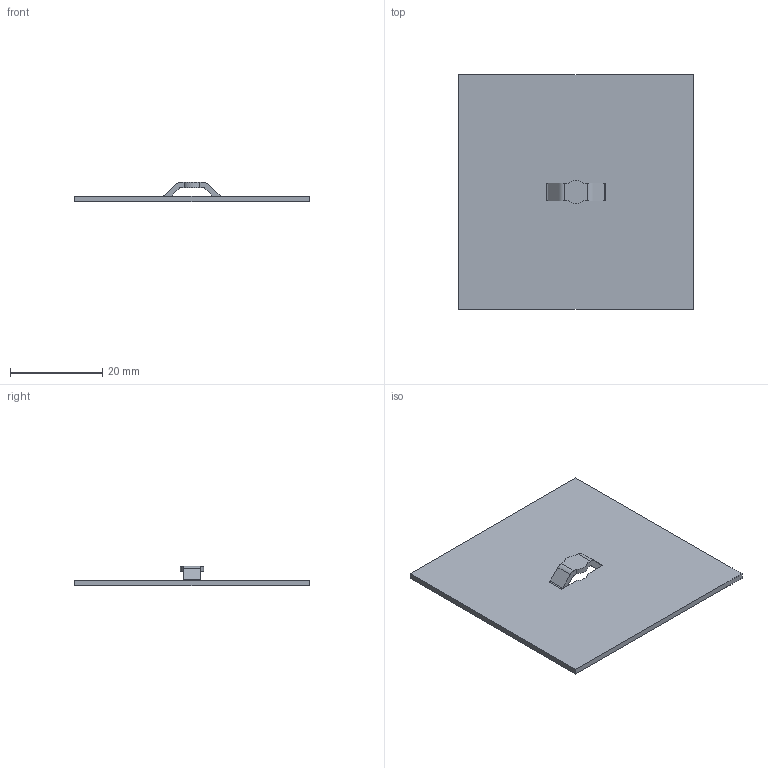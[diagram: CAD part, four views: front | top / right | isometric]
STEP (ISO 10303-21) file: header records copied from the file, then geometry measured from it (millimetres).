
FILE_DESCRIPTION((''),'1');
FILE_NAME('C:/Users/robertnolte/Desktop/WT#216-0277.stp','2012-03-27T23:21:17',(''),(''),'Spatial Interop R21 SP3','Kubotek KeyCreator 2011 V10.5.0 (24766)',' ');
FILE_SCHEMA(('CONFIG_CONTROL_DESIGN'));
Length unit declared in the file: inch
Products named in the file (1): 1
Bounding box: 50.8 x 50.8 x 4.22 mm (x, y, z)
Volume: 3157.1 mm3; surface area: 5483.6 mm2
Topology: 1 solids, 1 shells, 32 faces, 92 edges, 60 vertices
Faces by surface type: plane 20, cylinder 12
Entity records: 1100 total; most frequent: CARTESIAN_POINT 185, ORIENTED_EDGE 184, DIRECTION 182, EDGE_CURVE 92, LINE 68, VECTOR 68, VERTEX_POINT 60, AXIS2_PLACEMENT_3D 57
